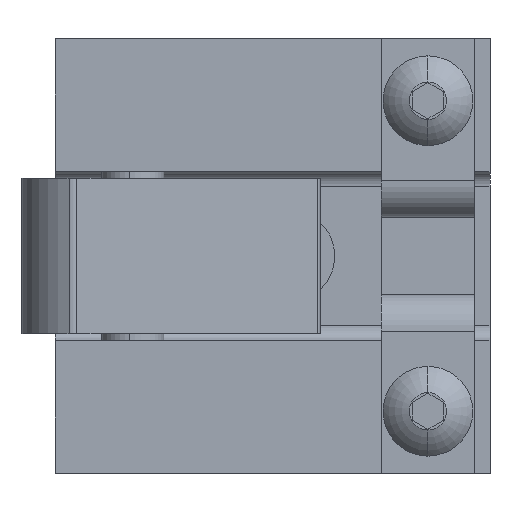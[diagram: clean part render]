
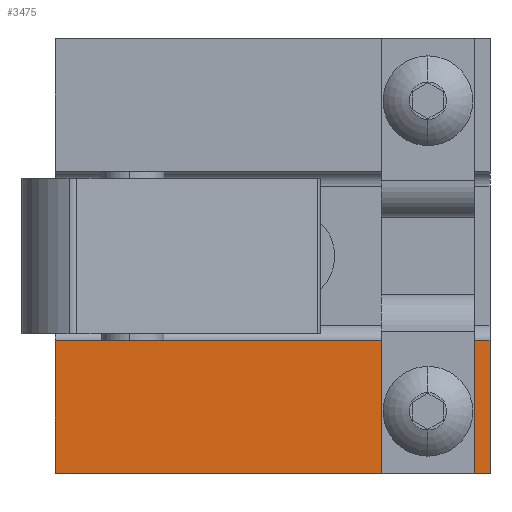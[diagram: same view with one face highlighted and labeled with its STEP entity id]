
A CAD part, left-side view. The second image highlights one B-rep face of the part: STEP entity #3475.
In plain terms, the highlighted planar face has unit normal (-1, 0, 0).
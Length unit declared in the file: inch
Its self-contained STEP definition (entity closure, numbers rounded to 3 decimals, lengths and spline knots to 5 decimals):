
#2213 = EDGE_CURVE ( 'NONE', #2284, #2215, #10344, .T. ) ;
#2215 = VERTEX_POINT ( 'NONE', #10420 ) ;
#2284 = VERTEX_POINT ( 'NONE', #10385 ) ;
#2320 = VERTEX_POINT ( 'NONE', #10456 ) ;
#2531 = EDGE_CURVE ( 'NONE', #2551, #2320, #10558, .T. ) ;
#2551 = VERTEX_POINT ( 'NONE', #11002 ) ;
#3475 = ADVANCED_FACE ( 'NONE', ( #12636, #12635 ), #12634, .T. ) ;
#3477 = EDGE_LOOP ( 'NONE', ( #3479, #3481 ) ) ;
#3479 = ORIENTED_EDGE ( 'NONE', *, *, #3480, .F. ) ;
#3480 = EDGE_CURVE ( 'NONE', #2215, #2284, #12624, .T. ) ;
#3481 = ORIENTED_EDGE ( 'NONE', *, *, #2213, .F. ) ;
#3482 = EDGE_LOOP ( 'NONE', ( #3576, #3573, #3575, #3960 ) ) ;
#3571 = VERTEX_POINT ( 'NONE', #12712 ) ;
#3572 = EDGE_CURVE ( 'NONE', #2320, #3930, #12711, .T. ) ;
#3573 = ORIENTED_EDGE ( 'NONE', *, *, #2531, .F. ) ;
#3574 = EDGE_CURVE ( 'NONE', #3571, #3930, #12827, .T. ) ;
#3575 = ORIENTED_EDGE ( 'NONE', *, *, #3577, .T. ) ;
#3576 = ORIENTED_EDGE ( 'NONE', *, *, #3572, .F. ) ;
#3577 = EDGE_CURVE ( 'NONE', #2551, #3571, #12798, .T. ) ;
#3930 = VERTEX_POINT ( 'NONE', #13354 ) ;
#3960 = ORIENTED_EDGE ( 'NONE', *, *, #3574, .T. ) ;
#10340 = DIRECTION ( 'NONE',  ( 0., 0., 1. ) ) ;
#10341 = DIRECTION ( 'NONE',  ( -1., 0., 0. ) ) ;
#10342 = CARTESIAN_POINT ( 'NONE',  ( 7.4273, 3.84026, -1.5 ) ) ;
#10343 = AXIS2_PLACEMENT_3D ( 'NONE', #10342, #10341, #10340 ) ;
#10344 = CIRCLE ( 'NONE', #10343, 0.09375 ) ;
#10385 = CARTESIAN_POINT ( 'NONE',  ( 7.4273, 3.84026, -1.59375 ) ) ;
#10420 = CARTESIAN_POINT ( 'NONE',  ( 7.4273, 3.84026, -1.40625 ) ) ;
#10456 = CARTESIAN_POINT ( 'NONE',  ( 7.4273, 5.34026, -1.215 ) ) ;
#10555 = DIRECTION ( 'NONE',  ( 0., 0., 1. ) ) ;
#10556 = VECTOR ( 'NONE', #10555, 39.37008 ) ;
#10557 = CARTESIAN_POINT ( 'NONE',  ( 7.4273, 5.34026, -1.75 ) ) ;
#10558 = LINE ( 'NONE', #10557, #10556 ) ;
#11002 = CARTESIAN_POINT ( 'NONE',  ( 7.4273, 5.34026, -1.75 ) ) ;
#12624 = CIRCLE ( 'NONE', #12645, 0.09375 ) ;
#12625 = DIRECTION ( 'NONE',  ( 0., 0., 1. ) ) ;
#12626 = DIRECTION ( 'NONE',  ( -1., 0., 0. ) ) ;
#12632 = CARTESIAN_POINT ( 'NONE',  ( 7.4273, 3.59026, -1.75 ) ) ;
#12633 = AXIS2_PLACEMENT_3D ( 'NONE', #12632, #12626, #12625 ) ;
#12634 = PLANE ( 'NONE',  #12633 ) ;
#12635 = FACE_OUTER_BOUND ( 'NONE', #3482, .T. ) ;
#12636 = FACE_BOUND ( 'NONE', #3477, .T. ) ;
#12642 = DIRECTION ( 'NONE',  ( 0., 0., 1. ) ) ;
#12643 = DIRECTION ( 'NONE',  ( -1., 0., 0. ) ) ;
#12644 = CARTESIAN_POINT ( 'NONE',  ( 7.4273, 3.84026, -1.5 ) ) ;
#12645 = AXIS2_PLACEMENT_3D ( 'NONE', #12644, #12643, #12642 ) ;
#12711 = LINE ( 'NONE', #12830, #12829 ) ;
#12712 = CARTESIAN_POINT ( 'NONE',  ( 7.4273, 3.59026, -1.75 ) ) ;
#12795 = DIRECTION ( 'NONE',  ( 0., -1., 0. ) ) ;
#12796 = VECTOR ( 'NONE', #12795, 39.37008 ) ;
#12797 = CARTESIAN_POINT ( 'NONE',  ( 7.4273, 3.59026, -1.75 ) ) ;
#12798 = LINE ( 'NONE', #12797, #12796 ) ;
#12827 = LINE ( 'NONE', #12901, #12900 ) ;
#12828 = DIRECTION ( 'NONE',  ( 0., -1., 0. ) ) ;
#12829 = VECTOR ( 'NONE', #12828, 39.37008 ) ;
#12830 = CARTESIAN_POINT ( 'NONE',  ( 7.4273, 3.59026, -1.215 ) ) ;
#12899 = DIRECTION ( 'NONE',  ( 0., 0., 1. ) ) ;
#12900 = VECTOR ( 'NONE', #12899, 39.37008 ) ;
#12901 = CARTESIAN_POINT ( 'NONE',  ( 7.4273, 3.59026, -1.75 ) ) ;
#13354 = CARTESIAN_POINT ( 'NONE',  ( 7.4273, 3.59026, -1.215 ) ) ;
